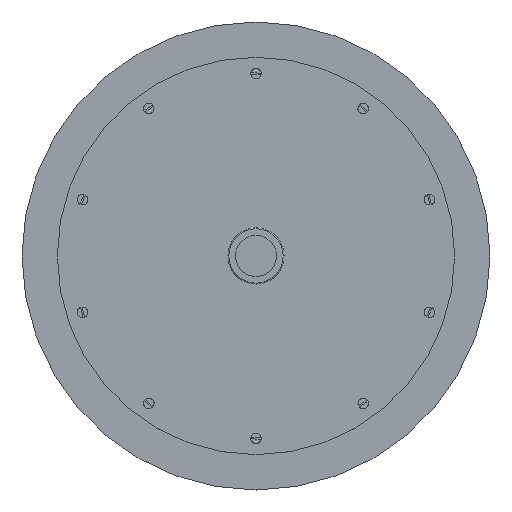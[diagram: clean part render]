
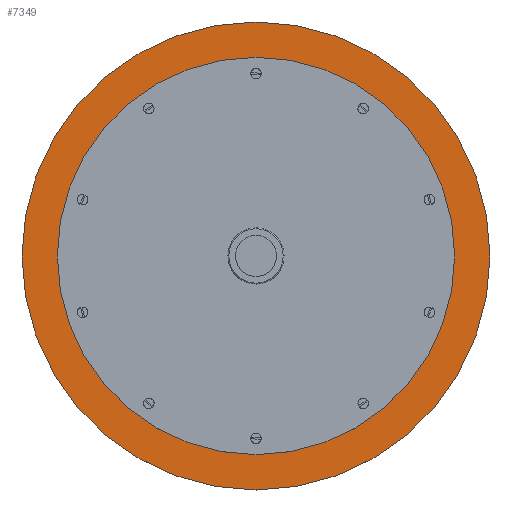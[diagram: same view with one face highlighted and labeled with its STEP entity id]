
A CAD part, top view. The second image highlights one B-rep face of the part: STEP entity #7349.
In plain terms, the highlighted planar face has unit normal (0, 0, 1).
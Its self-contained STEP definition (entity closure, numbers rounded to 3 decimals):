
#911=CARTESIAN_POINT('',(500.,0.,0.));
#912=DIRECTION('',(0.,0.,1.));
#913=DIRECTION('',(-1.,0.,0.));
#914=AXIS2_PLACEMENT_3D('',#911,#912,#913);
#916=CARTESIAN_POINT('',(500.,0.,0.));
#917=DIRECTION('',(0.,0.,1.));
#918=DIRECTION('',(0.,1.,0.));
#919=AXIS2_PLACEMENT_3D('',#916,#917,#918);
#921=CARTESIAN_POINT('',(500.,0.,0.));
#922=DIRECTION('',(0.,0.,1.));
#923=DIRECTION('',(0.,-1.,0.));
#924=AXIS2_PLACEMENT_3D('',#921,#922,#923);
#926=CARTESIAN_POINT('',(500.,0.,0.));
#927=DIRECTION('',(0.,0.,1.));
#928=DIRECTION('',(0.,-1.,0.));
#929=AXIS2_PLACEMENT_3D('',#926,#927,#928);
#931=CARTESIAN_POINT('',(500.,0.,0.));
#932=DIRECTION('',(0.,0.,1.));
#933=DIRECTION('',(0.,1.,0.));
#934=AXIS2_PLACEMENT_3D('',#931,#932,#933);
#5430=CARTESIAN_POINT('',(500.,132.5,0.));
#5432=VERTEX_POINT('',#5430);
#5434=CARTESIAN_POINT('',(500.,-132.5,0.));
#5436=VERTEX_POINT('',#5434);
#5438=CARTESIAN_POINT('',(367.5,0.,0.));
#5439=VERTEX_POINT('',#5438);
#6756=CARTESIAN_POINT('',(500.,-112.5,0.));
#6757=CARTESIAN_POINT('',(500.,112.5,0.));
#6758=VERTEX_POINT('',#6756);
#6759=VERTEX_POINT('',#6757);
#7331=CARTESIAN_POINT('',(500.,0.,0.));
#7332=DIRECTION('',(0.,0.,-1.));
#7333=DIRECTION('',(-1.,0.,0.));
#7334=AXIS2_PLACEMENT_3D('',#7331,#7332,#7333);
#7335=PLANE('',#7334);
#7337=ORIENTED_EDGE('',*,*,#7336,.F.);
#7339=ORIENTED_EDGE('',*,*,#7338,.F.);
#7340=ORIENTED_EDGE('',*,*,#7321,.F.);
#7341=EDGE_LOOP('',(#7337,#7339,#7340));
#7342=FACE_OUTER_BOUND('',#7341,.F.);
#7344=ORIENTED_EDGE('',*,*,#7343,.T.);
#7346=ORIENTED_EDGE('',*,*,#7345,.T.);
#7347=EDGE_LOOP('',(#7344,#7346));
#7348=FACE_BOUND('',#7347,.F.);
#7349=ADVANCED_FACE('',(#7342,#7348),#7335,.F.);
#915=CIRCLE('',#914,132.5);
#920=CIRCLE('',#919,132.5);
#925=CIRCLE('',#924,132.5);
#930=CIRCLE('',#929,112.5);
#935=CIRCLE('',#934,112.5);
#7321=EDGE_CURVE('',#5436,#5432,#925,.T.);
#7336=EDGE_CURVE('',#5439,#5436,#915,.T.);
#7338=EDGE_CURVE('',#5432,#5439,#920,.T.);
#7343=EDGE_CURVE('',#6758,#6759,#930,.T.);
#7345=EDGE_CURVE('',#6759,#6758,#935,.T.);
